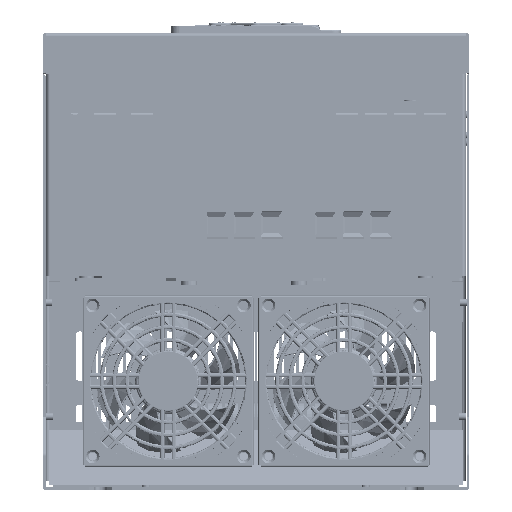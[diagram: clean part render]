
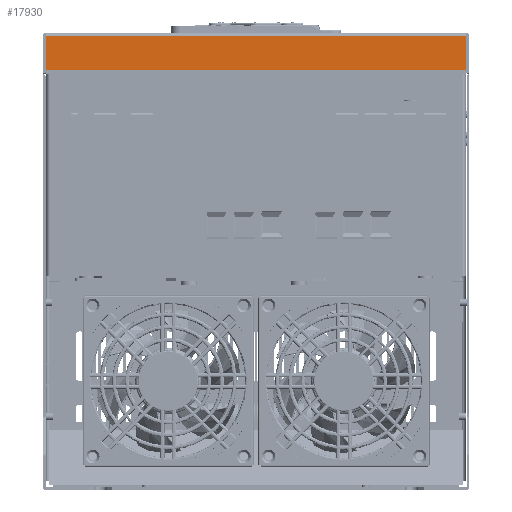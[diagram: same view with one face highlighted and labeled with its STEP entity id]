
A CAD part, front view. The second image highlights one B-rep face of the part: STEP entity #17930.
In plain terms, the highlighted planar face has unit normal (0, -1, 0).
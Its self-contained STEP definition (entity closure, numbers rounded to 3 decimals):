
#17930=ADVANCED_FACE('',(#66525),#66527,.F.);
#66525=FACE_BOUND('',#66526,.T.);
#66526=EDGE_LOOP('',(#108955,#108956,#108957,#108958));
#66527=PLANE('',#66528);
#66528=AXIS2_PLACEMENT_3D('',#66529,#66530,#66531);
#66529=CARTESIAN_POINT('',(-0.1,-244.658,247.711));
#66530=DIRECTION('',(0.,1.,0.));
#66531=DIRECTION('',(0.,0.,1.));
#108955=ORIENTED_EDGE('',*,*,#136847,.F.);
#108956=ORIENTED_EDGE('',*,*,#136843,.T.);
#108957=ORIENTED_EDGE('',*,*,#136839,.T.);
#108958=ORIENTED_EDGE('',*,*,#136849,.T.);
#136839=EDGE_CURVE('',#163421,#163419,#163422,.T.);
#136843=EDGE_CURVE('',#163425,#163421,#163428,.T.);
#136847=EDGE_CURVE('',#163425,#163433,#163434,.T.);
#136849=EDGE_CURVE('',#163419,#163433,#163436,.T.);
#163419=VERTEX_POINT('',#221134);
#163421=VERTEX_POINT('',#221138);
#163422=LINE('',#221139,#221140);
#163425=VERTEX_POINT('',#221146);
#163428=LINE('',#221153,#221154);
#163433=VERTEX_POINT('',#221168);
#163434=LINE('',#221169,#221170);
#163436=LINE('',#221176,#221177);
#221134=CARTESIAN_POINT('',(114.7,-244.658,227.711));
#221138=CARTESIAN_POINT('',(-114.9,-244.658,227.711));
#221139=CARTESIAN_POINT('',(-114.9,-244.658,227.711));
#221140=VECTOR('',#221141,1.);
#221141=DIRECTION('',(1.,0.,0.));
#221146=CARTESIAN_POINT('',(-114.9,-244.658,246.011));
#221153=CARTESIAN_POINT('',(-114.9,-244.658,246.011));
#221154=VECTOR('',#221155,1.);
#221155=DIRECTION('',(0.,0.,-1.));
#221168=CARTESIAN_POINT('',(114.7,-244.658,246.011));
#221169=CARTESIAN_POINT('',(-114.9,-244.658,246.011));
#221170=VECTOR('',#221171,1.);
#221171=DIRECTION('',(1.,0.,0.));
#221176=CARTESIAN_POINT('',(114.7,-244.658,227.711));
#221177=VECTOR('',#221178,1.);
#221178=DIRECTION('',(0.,0.,1.));
